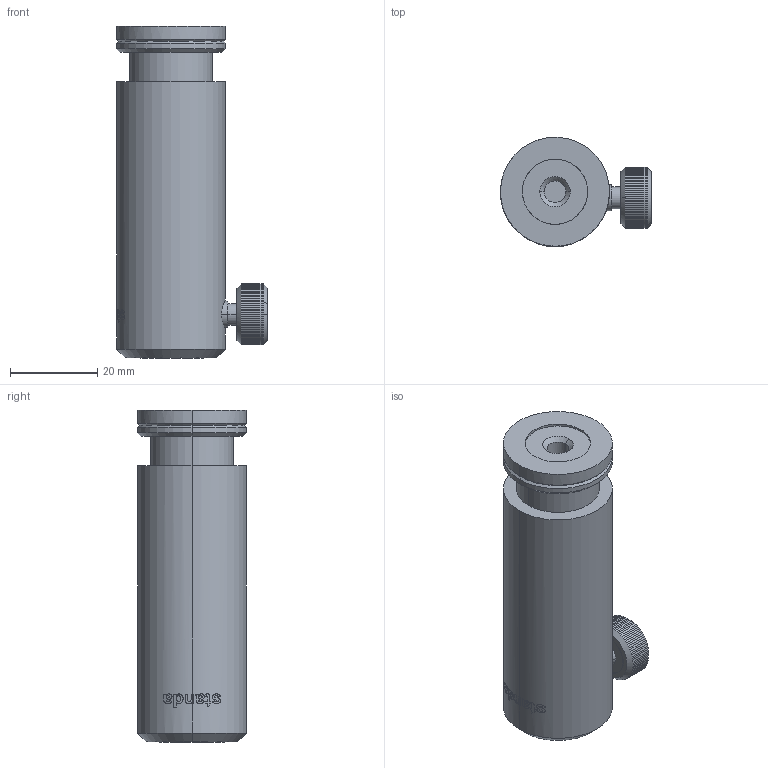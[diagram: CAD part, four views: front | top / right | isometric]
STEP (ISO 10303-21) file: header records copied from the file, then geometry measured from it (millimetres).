
FILE_DESCRIPTION (( 'STEP AP203' ), '1' );
FILE_NAME ('3PHB-Inch-05-3.STEP', '2010-11-26T14:12:27', ( 'Darius' ), ( '' ), 'SwSTEP 2.0', 'SolidWorks 2003240', '' );
FILE_SCHEMA (( 'CONFIG_CONTROL_DESIGN' ));
Length unit declared in the file: millimetre
Products named in the file (1): 3PHB-Inch-05-3
Bounding box: 34.63 x 25 x 76.2 mm (x, y, z)
Volume: 32816 mm3; surface area: 9302.1 mm2
Topology: 1 solids, 1 shells, 418 faces, 1144 edges, 752 vertices
Faces by surface type: plane 199, bspline 148, cylinder 51, cone 20
Entity records: 18966 total; most frequent: CARTESIAN_POINT 9879, ORIENTED_EDGE 2284, DIRECTION 1172, EDGE_CURVE 1142, VERTEX_POINT 752, B_SPLINE_CURVE_WITH_KNOTS 580, LINE 452, VECTOR 452
